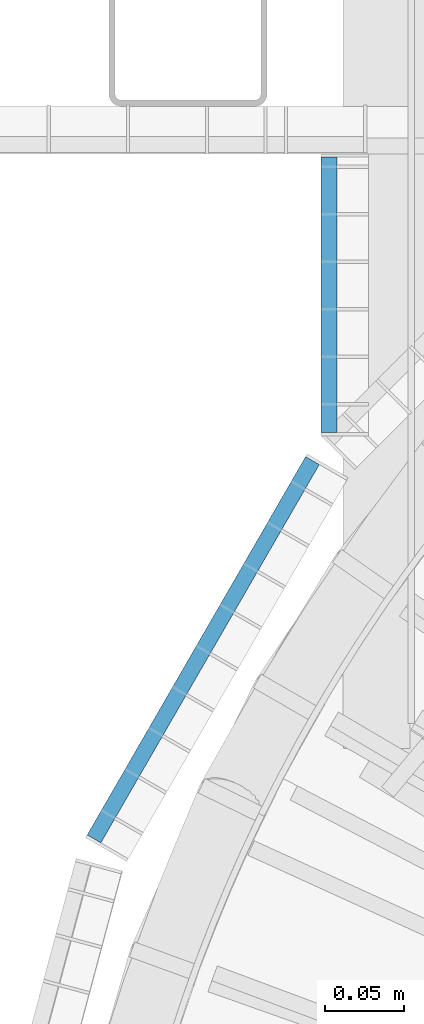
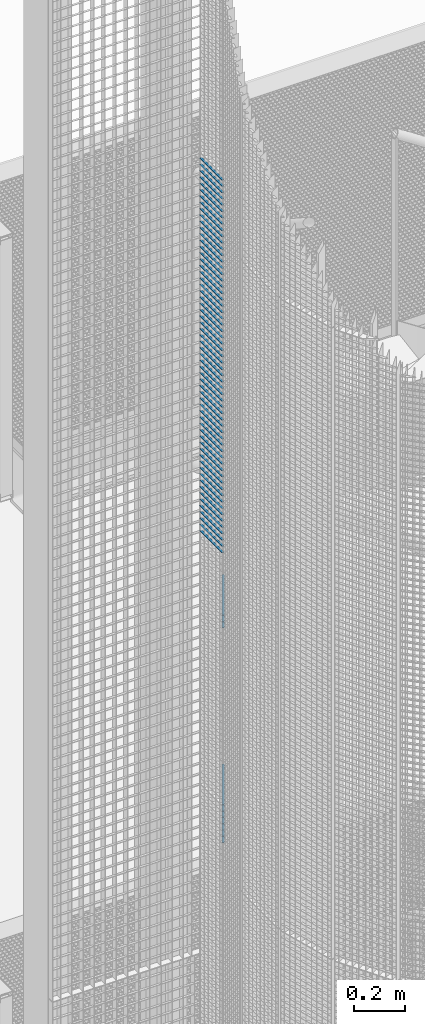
# One storey, part 187 of 1148: 70 beams, 2 elements without a shape of their own.
"""IFC2X3 building model written with IfcOpenShell, lengths in millimetres."""

from ifc_helpers import new_model, si_unit, frame, origin_with_axes, origin_2d_with_axis, place, context, subcontext, project, spatial, rectangle, extrude, material, type_object, element, aggregate, save


model = new_model("IFC2X3")

# Units and contexts
model_context = context("Model", 3, precision=1e-05, world=origin_with_axes())
body_context = subcontext(model_context, "Body", "Model", "MODEL_VIEW")
ifc_project = project(units=[si_unit("LENGTHUNIT", "METRE", prefix="MILLI"), si_unit("AREAUNIT", "SQUARE_METRE"), si_unit("VOLUMEUNIT", "CUBIC_METRE"), si_unit("MASSUNIT", "GRAM", prefix="KILO"), si_unit("TIMEUNIT", "SECOND"), si_unit("PLANEANGLEUNIT", "RADIAN"), si_unit("SOLIDANGLEUNIT", "STERADIAN"), si_unit("THERMODYNAMICTEMPERATUREUNIT", "DEGREE_CELSIUS"), si_unit("LUMINOUSINTENSITYUNIT", "LUMEN")], contexts=[model_context])

# Site, building, storey
site_placement = place(None, origin_with_axes())
site = spatial("IfcSite", under=ifc_project, at=site_placement, Name="Undefined", CompositionType="ELEMENT")
building_placement = place(site_placement, origin_with_axes())
building = spatial("IfcBuilding", under=site, at=building_placement, Name="Undefined", CompositionType="ELEMENT")
storey_placement = place(building_placement, origin_with_axes())
storey = spatial("IfcBuildingStorey", under=building, at=storey_placement, Name="Undefined", CompositionType="ELEMENT", Elevation=0.0)

# Assembly, beams
assembly_1_placement = place(storey_placement, origin_with_axes())
assembly_1 = element("IfcElementAssembly", 1, at=assembly_1_placement, inside=storey, Name="BORDURE", AssemblyPlace="NOTDEFINED", PredefinedType="NOTDEFINED")
ifc_material = material(Name="STEEL/S235JR")
beam_type = type_object("IfcBeamType", Name="PL2*10", PredefinedType="NOTDEFINED")
beam_1_placement = place(assembly_1_placement, frame((-895.303964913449, 676.24804453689, 12210.0), z_axis=(-0.866025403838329, 0.499999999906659, 0.0), x_axis=(-0.49999999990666, -0.866025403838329, 0.0)))
beam_1 = element("IfcBeam", 2, at=beam_1_placement, type_object=beam_type, material=ifc_material, Name="ENTRETOISE", context=body_context, shape_type="SweptSolid", body=[
    extrude(rectangle(XDim=2.0, YDim=10.0, at=origin_2d_with_axis()), frame((275.999999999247, 9.09494701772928e-13, 1.53210777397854e-14), z_axis=(-1.0, 0.0, 0.0), x_axis=(0.0, -1.0, 0.0)), (0.0, 0.0, 1.0), 276.0),
])
beam_2_placement = place(assembly_1_placement, frame((-895.30396491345, 676.24804453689, 12180.0), z_axis=(-0.866025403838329, 0.499999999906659, 0.0), x_axis=(-0.49999999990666, -0.866025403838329, 0.0)))
beam_2 = element("IfcBeam", 3, at=beam_2_placement, type_object=beam_type, material=ifc_material, Name="ENTRETOISE", context=body_context, shape_type="SweptSolid", body=[
    extrude(rectangle(XDim=2.0, YDim=10.0, at=origin_2d_with_axis()), frame((275.999999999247, 9.09494701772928e-13, 1.53210777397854e-14), z_axis=(-1.0, 0.0, 0.0), x_axis=(0.0, -1.0, 0.0)), (0.0, 0.0, 1.0), 276.0),
])
beam_3_placement = place(assembly_1_placement, frame((-895.303964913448, 676.248044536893, 13050.0), z_axis=(-0.866025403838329, 0.499999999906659, 0.0), x_axis=(-0.49999999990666, -0.866025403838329, 0.0)))
beam_3 = element("IfcBeam", 4, at=beam_3_placement, type_object=beam_type, material=ifc_material, Name="ENTRETOISE", context=body_context, shape_type="SweptSolid", body=[
    extrude(rectangle(XDim=2.0, YDim=10.0, at=origin_2d_with_axis()), frame((275.999999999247, 9.09494701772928e-13, 1.53210777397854e-14), z_axis=(-1.0, 0.0, 0.0), x_axis=(0.0, -1.0, 0.0)), (0.0, 0.0, 1.0), 276.0),
])
beam_4_placement = place(assembly_1_placement, frame((-895.30396491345, 676.24804453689, 12150.0), z_axis=(-0.866025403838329, 0.499999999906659, 0.0), x_axis=(-0.49999999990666, -0.866025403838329, 0.0)))
beam_4 = element("IfcBeam", 5, at=beam_4_placement, type_object=beam_type, material=ifc_material, Name="ENTRETOISE", context=body_context, shape_type="SweptSolid", body=[
    extrude(rectangle(XDim=2.0, YDim=10.0, at=origin_2d_with_axis()), frame((275.999999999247, 9.09494701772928e-13, 1.53210777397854e-14), z_axis=(-1.0, 0.0, 0.0), x_axis=(0.0, -1.0, 0.0)), (0.0, 0.0, 1.0), 276.0),
])
beam_5_placement = place(assembly_1_placement, frame((-895.30396491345, 676.24804453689, 12120.0), z_axis=(-0.866025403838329, 0.499999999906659, 0.0), x_axis=(-0.49999999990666, -0.866025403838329, 0.0)))
beam_5 = element("IfcBeam", 6, at=beam_5_placement, type_object=beam_type, material=ifc_material, Name="ENTRETOISE", context=body_context, shape_type="SweptSolid", body=[
    extrude(rectangle(XDim=2.0, YDim=10.0, at=origin_2d_with_axis()), frame((275.999999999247, 9.09494701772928e-13, 1.53210777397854e-14), z_axis=(-1.0, 0.0, 0.0), x_axis=(0.0, -1.0, 0.0)), (0.0, 0.0, 1.0), 276.0),
])
beam_6_placement = place(assembly_1_placement, frame((-895.303964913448, 676.248044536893, 13080.0), z_axis=(-0.866025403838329, 0.499999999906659, 0.0), x_axis=(-0.49999999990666, -0.866025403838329, 0.0)))
beam_6 = element("IfcBeam", 7, at=beam_6_placement, type_object=beam_type, material=ifc_material, Name="ENTRETOISE", context=body_context, shape_type="SweptSolid", body=[
    extrude(rectangle(XDim=2.0, YDim=10.0, at=origin_2d_with_axis()), frame((275.999999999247, 9.09494701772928e-13, 1.53210777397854e-14), z_axis=(-1.0, 0.0, 0.0), x_axis=(0.0, -1.0, 0.0)), (0.0, 0.0, 1.0), 276.0),
])
beam_7_placement = place(assembly_1_placement, frame((-895.30396491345, 676.24804453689, 12090.0), z_axis=(-0.866025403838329, 0.499999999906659, 0.0), x_axis=(-0.49999999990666, -0.866025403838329, 0.0)))
beam_7 = element("IfcBeam", 8, at=beam_7_placement, type_object=beam_type, material=ifc_material, Name="ENTRETOISE", context=body_context, shape_type="SweptSolid", body=[
    extrude(rectangle(XDim=2.0, YDim=10.0, at=origin_2d_with_axis()), frame((275.999999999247, 9.09494701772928e-13, 1.53210777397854e-14), z_axis=(-1.0, 0.0, 0.0), x_axis=(0.0, -1.0, 0.0)), (0.0, 0.0, 1.0), 276.0),
])
beam_8_placement = place(assembly_1_placement, frame((-895.30396491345, 676.24804453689, 12060.0), z_axis=(-0.866025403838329, 0.499999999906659, 0.0), x_axis=(-0.49999999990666, -0.866025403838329, 0.0)))
beam_8 = element("IfcBeam", 9, at=beam_8_placement, type_object=beam_type, material=ifc_material, Name="ENTRETOISE", context=body_context, shape_type="SweptSolid", body=[
    extrude(rectangle(XDim=2.0, YDim=10.0, at=origin_2d_with_axis()), frame((275.999999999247, 9.09494701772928e-13, 1.53210777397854e-14), z_axis=(-1.0, 0.0, 0.0), x_axis=(0.0, -1.0, 0.0)), (0.0, 0.0, 1.0), 276.0),
])
beam_9_placement = place(assembly_1_placement, frame((-895.303964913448, 676.248044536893, 13110.0), z_axis=(-0.866025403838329, 0.499999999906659, 0.0), x_axis=(-0.49999999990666, -0.866025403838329, 0.0)))
beam_9 = element("IfcBeam", 10, at=beam_9_placement, type_object=beam_type, material=ifc_material, Name="ENTRETOISE", context=body_context, shape_type="SweptSolid", body=[
    extrude(rectangle(XDim=2.0, YDim=10.0, at=origin_2d_with_axis()), frame((275.999999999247, 9.09494701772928e-13, 1.53210777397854e-14), z_axis=(-1.0, 0.0, 0.0), x_axis=(0.0, -1.0, 0.0)), (0.0, 0.0, 1.0), 276.0),
])
beam_10_placement = place(assembly_1_placement, frame((-895.30396491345, 676.248044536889, 12030.0), z_axis=(-0.866025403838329, 0.499999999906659, 0.0), x_axis=(-0.49999999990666, -0.866025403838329, 0.0)))
beam_10 = element("IfcBeam", 11, at=beam_10_placement, type_object=beam_type, material=ifc_material, Name="ENTRETOISE", context=body_context, shape_type="SweptSolid", body=[
    extrude(rectangle(XDim=2.0, YDim=10.0, at=origin_2d_with_axis()), frame((275.999999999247, 9.09494701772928e-13, 1.53210777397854e-14), z_axis=(-1.0, 0.0, 0.0), x_axis=(0.0, -1.0, 0.0)), (0.0, 0.0, 1.0), 276.0),
])
aggregate(assembly_1, [beam_1, beam_2, beam_3, beam_4, beam_5, beam_6, beam_7, beam_8, beam_9, beam_10])

assembly_2_placement = place(storey_placement, origin_with_axes())
assembly_2 = element("IfcElementAssembly", 12, at=assembly_2_placement, inside=storey, Name="BORDURE", AssemblyPlace="NOTDEFINED", PredefinedType="NOTDEFINED")
beam_11_placement = place(assembly_2_placement, frame((-884.882567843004, 867.997017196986, 14970.0), z_axis=(-1.0, 0.0, 0.0), x_axis=(0.0, -1.0, 0.0)))
beam_11 = element("IfcBeam", 13, at=beam_11_placement, type_object=beam_type, material=ifc_material, Name="ENTRETOISE", context=body_context, shape_type="SweptSolid", body=[
    extrude(rectangle(XDim=2.0, YDim=10.0, at=origin_2d_with_axis()), frame((174.109999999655, 0.0, 0.0), z_axis=(-1.0, 0.0, 0.0), x_axis=(0.0, -1.0, 0.0)), (0.0, 0.0, 1.0), 174.11),
])
beam_12_placement = place(assembly_2_placement, frame((-884.882567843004, 867.997017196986, 14940.0), z_axis=(-1.0, 0.0, 0.0), x_axis=(0.0, -1.0, 0.0)))
beam_12 = element("IfcBeam", 14, at=beam_12_placement, type_object=beam_type, material=ifc_material, Name="ENTRETOISE", context=body_context, shape_type="SweptSolid", body=[
    extrude(rectangle(XDim=2.0, YDim=10.0, at=origin_2d_with_axis()), frame((174.109999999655, 0.0, 0.0), z_axis=(-1.0, 0.0, 0.0), x_axis=(0.0, -1.0, 0.0)), (0.0, 0.0, 1.0), 174.11),
])
beam_13_placement = place(assembly_2_placement, frame((-884.882567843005, 867.997017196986, 14910.0), z_axis=(-1.0, 0.0, 0.0), x_axis=(0.0, -1.0, 0.0)))
beam_13 = element("IfcBeam", 15, at=beam_13_placement, type_object=beam_type, material=ifc_material, Name="ENTRETOISE", context=body_context, shape_type="SweptSolid", body=[
    extrude(rectangle(XDim=2.0, YDim=10.0, at=origin_2d_with_axis()), frame((174.109999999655, 0.0, 0.0), z_axis=(-1.0, 0.0, 0.0), x_axis=(0.0, -1.0, 0.0)), (0.0, 0.0, 1.0), 174.11),
])
beam_14_placement = place(assembly_2_placement, frame((-884.882567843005, 867.997017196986, 14880.0), z_axis=(-1.0, 0.0, 0.0), x_axis=(0.0, -1.0, 0.0)))
beam_14 = element("IfcBeam", 16, at=beam_14_placement, type_object=beam_type, material=ifc_material, Name="ENTRETOISE", context=body_context, shape_type="SweptSolid", body=[
    extrude(rectangle(XDim=2.0, YDim=10.0, at=origin_2d_with_axis()), frame((174.109999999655, 0.0, 0.0), z_axis=(-1.0, 0.0, 0.0), x_axis=(0.0, -1.0, 0.0)), (0.0, 0.0, 1.0), 174.11),
])
beam_15_placement = place(assembly_2_placement, frame((-884.882567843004, 867.997017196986, 14850.0), z_axis=(-1.0, 0.0, 0.0), x_axis=(0.0, -1.0, 0.0)))
beam_15 = element("IfcBeam", 17, at=beam_15_placement, type_object=beam_type, material=ifc_material, Name="ENTRETOISE", context=body_context, shape_type="SweptSolid", body=[
    extrude(rectangle(XDim=2.0, YDim=10.0, at=origin_2d_with_axis()), frame((174.109999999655, 0.0, 0.0), z_axis=(-1.0, 0.0, 0.0), x_axis=(0.0, -1.0, 0.0)), (0.0, 0.0, 1.0), 174.11),
])
beam_16_placement = place(assembly_2_placement, frame((-884.882567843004, 867.997017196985, 14820.0), z_axis=(-1.0, 0.0, 0.0), x_axis=(0.0, -1.0, 0.0)))
beam_16 = element("IfcBeam", 18, at=beam_16_placement, type_object=beam_type, material=ifc_material, Name="ENTRETOISE", context=body_context, shape_type="SweptSolid", body=[
    extrude(rectangle(XDim=2.0, YDim=10.0, at=origin_2d_with_axis()), frame((174.109999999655, 0.0, 0.0), z_axis=(-1.0, 0.0, 0.0), x_axis=(0.0, -1.0, 0.0)), (0.0, 0.0, 1.0), 174.11),
])
beam_17_placement = place(assembly_2_placement, frame((-884.882567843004, 867.997017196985, 14790.0), z_axis=(-1.0, 0.0, 0.0), x_axis=(0.0, -1.0, 0.0)))
beam_17 = element("IfcBeam", 19, at=beam_17_placement, type_object=beam_type, material=ifc_material, Name="ENTRETOISE", context=body_context, shape_type="SweptSolid", body=[
    extrude(rectangle(XDim=2.0, YDim=10.0, at=origin_2d_with_axis()), frame((174.109999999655, 0.0, 0.0), z_axis=(-1.0, 0.0, 0.0), x_axis=(0.0, -1.0, 0.0)), (0.0, 0.0, 1.0), 174.11),
])
beam_18_placement = place(assembly_2_placement, frame((-884.882567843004, 867.997017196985, 14760.0), z_axis=(-1.0, 0.0, 0.0), x_axis=(0.0, -1.0, 0.0)))
beam_18 = element("IfcBeam", 20, at=beam_18_placement, type_object=beam_type, material=ifc_material, Name="ENTRETOISE", context=body_context, shape_type="SweptSolid", body=[
    extrude(rectangle(XDim=2.0, YDim=10.0, at=origin_2d_with_axis()), frame((174.109999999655, 0.0, 0.0), z_axis=(-1.0, 0.0, 0.0), x_axis=(0.0, -1.0, 0.0)), (0.0, 0.0, 1.0), 174.11),
])
beam_19_placement = place(assembly_2_placement, frame((-884.882567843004, 867.997017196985, 14730.0), z_axis=(-1.0, 0.0, 0.0), x_axis=(0.0, -1.0, 0.0)))
beam_19 = element("IfcBeam", 21, at=beam_19_placement, type_object=beam_type, material=ifc_material, Name="ENTRETOISE", context=body_context, shape_type="SweptSolid", body=[
    extrude(rectangle(XDim=2.0, YDim=10.0, at=origin_2d_with_axis()), frame((174.109999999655, 0.0, 0.0), z_axis=(-1.0, 0.0, 0.0), x_axis=(0.0, -1.0, 0.0)), (0.0, 0.0, 1.0), 174.11),
])
beam_20_placement = place(assembly_2_placement, frame((-884.882567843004, 867.997017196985, 14700.0), z_axis=(-1.0, 0.0, 0.0), x_axis=(0.0, -1.0, 0.0)))
beam_20 = element("IfcBeam", 22, at=beam_20_placement, type_object=beam_type, material=ifc_material, Name="ENTRETOISE", context=body_context, shape_type="SweptSolid", body=[
    extrude(rectangle(XDim=2.0, YDim=10.0, at=origin_2d_with_axis()), frame((174.109999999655, 0.0, 0.0), z_axis=(-1.0, 0.0, 0.0), x_axis=(0.0, -1.0, 0.0)), (0.0, 0.0, 1.0), 174.11),
])
beam_21_placement = place(assembly_2_placement, frame((-884.882567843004, 867.997017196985, 14670.0), z_axis=(-1.0, 0.0, 0.0), x_axis=(0.0, -1.0, 0.0)))
beam_21 = element("IfcBeam", 23, at=beam_21_placement, type_object=beam_type, material=ifc_material, Name="ENTRETOISE", context=body_context, shape_type="SweptSolid", body=[
    extrude(rectangle(XDim=2.0, YDim=10.0, at=origin_2d_with_axis()), frame((174.109999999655, 0.0, 0.0), z_axis=(-1.0, 0.0, 0.0), x_axis=(0.0, -1.0, 0.0)), (0.0, 0.0, 1.0), 174.11),
])
beam_22_placement = place(assembly_2_placement, frame((-884.882567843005, 867.997017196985, 14640.0), z_axis=(-1.0, 0.0, 0.0), x_axis=(0.0, -1.0, 0.0)))
beam_22 = element("IfcBeam", 24, at=beam_22_placement, type_object=beam_type, material=ifc_material, Name="ENTRETOISE", context=body_context, shape_type="SweptSolid", body=[
    extrude(rectangle(XDim=2.0, YDim=10.0, at=origin_2d_with_axis()), frame((174.109999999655, 0.0, 0.0), z_axis=(-1.0, 0.0, 0.0), x_axis=(0.0, -1.0, 0.0)), (0.0, 0.0, 1.0), 174.11),
])
beam_23_placement = place(assembly_2_placement, frame((-884.882567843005, 867.997017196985, 14610.0), z_axis=(-1.0, 0.0, 0.0), x_axis=(0.0, -1.0, 0.0)))
beam_23 = element("IfcBeam", 25, at=beam_23_placement, type_object=beam_type, material=ifc_material, Name="ENTRETOISE", context=body_context, shape_type="SweptSolid", body=[
    extrude(rectangle(XDim=2.0, YDim=10.0, at=origin_2d_with_axis()), frame((174.109999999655, 0.0, 0.0), z_axis=(-1.0, 0.0, 0.0), x_axis=(0.0, -1.0, 0.0)), (0.0, 0.0, 1.0), 174.11),
])
beam_24_placement = place(assembly_2_placement, frame((-884.882567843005, 867.997017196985, 14580.0), z_axis=(-1.0, 0.0, 0.0), x_axis=(0.0, -1.0, 0.0)))
beam_24 = element("IfcBeam", 26, at=beam_24_placement, type_object=beam_type, material=ifc_material, Name="ENTRETOISE", context=body_context, shape_type="SweptSolid", body=[
    extrude(rectangle(XDim=2.0, YDim=10.0, at=origin_2d_with_axis()), frame((174.109999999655, 0.0, 0.0), z_axis=(-1.0, 0.0, 0.0), x_axis=(0.0, -1.0, 0.0)), (0.0, 0.0, 1.0), 174.11),
])
beam_25_placement = place(assembly_2_placement, frame((-884.882567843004, 867.997017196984, 14550.0), z_axis=(-1.0, 0.0, 0.0), x_axis=(0.0, -1.0, 0.0)))
beam_25 = element("IfcBeam", 27, at=beam_25_placement, type_object=beam_type, material=ifc_material, Name="ENTRETOISE", context=body_context, shape_type="SweptSolid", body=[
    extrude(rectangle(XDim=2.0, YDim=10.0, at=origin_2d_with_axis()), frame((174.109999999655, 0.0, 0.0), z_axis=(-1.0, 0.0, 0.0), x_axis=(0.0, -1.0, 0.0)), (0.0, 0.0, 1.0), 174.11),
])
beam_26_placement = place(assembly_2_placement, frame((-884.882567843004, 867.997017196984, 14520.0), z_axis=(-1.0, 0.0, 0.0), x_axis=(0.0, -1.0, 0.0)))
beam_26 = element("IfcBeam", 28, at=beam_26_placement, type_object=beam_type, material=ifc_material, Name="ENTRETOISE", context=body_context, shape_type="SweptSolid", body=[
    extrude(rectangle(XDim=2.0, YDim=10.0, at=origin_2d_with_axis()), frame((174.109999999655, 0.0, 0.0), z_axis=(-1.0, 0.0, 0.0), x_axis=(0.0, -1.0, 0.0)), (0.0, 0.0, 1.0), 174.11),
])
beam_27_placement = place(assembly_2_placement, frame((-884.882567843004, 867.997017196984, 14490.0), z_axis=(-1.0, 0.0, 0.0), x_axis=(0.0, -1.0, 0.0)))
beam_27 = element("IfcBeam", 29, at=beam_27_placement, type_object=beam_type, material=ifc_material, Name="ENTRETOISE", context=body_context, shape_type="SweptSolid", body=[
    extrude(rectangle(XDim=2.0, YDim=10.0, at=origin_2d_with_axis()), frame((174.109999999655, 0.0, 0.0), z_axis=(-1.0, 0.0, 0.0), x_axis=(0.0, -1.0, 0.0)), (0.0, 0.0, 1.0), 174.11),
])
beam_28_placement = place(assembly_2_placement, frame((-884.882567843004, 867.997017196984, 14460.0), z_axis=(-1.0, 0.0, 0.0), x_axis=(0.0, -1.0, 0.0)))
beam_28 = element("IfcBeam", 30, at=beam_28_placement, type_object=beam_type, material=ifc_material, Name="ENTRETOISE", context=body_context, shape_type="SweptSolid", body=[
    extrude(rectangle(XDim=2.0, YDim=10.0, at=origin_2d_with_axis()), frame((174.109999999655, 0.0, 0.0), z_axis=(-1.0, 0.0, 0.0), x_axis=(0.0, -1.0, 0.0)), (0.0, 0.0, 1.0), 174.11),
])
beam_29_placement = place(assembly_2_placement, frame((-884.882567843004, 867.997017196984, 14430.0), z_axis=(-1.0, 0.0, 0.0), x_axis=(0.0, -1.0, 0.0)))
beam_29 = element("IfcBeam", 31, at=beam_29_placement, type_object=beam_type, material=ifc_material, Name="ENTRETOISE", context=body_context, shape_type="SweptSolid", body=[
    extrude(rectangle(XDim=2.0, YDim=10.0, at=origin_2d_with_axis()), frame((174.109999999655, 0.0, 0.0), z_axis=(-1.0, 0.0, 0.0), x_axis=(0.0, -1.0, 0.0)), (0.0, 0.0, 1.0), 174.11),
])
beam_30_placement = place(assembly_2_placement, frame((-884.882567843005, 867.997017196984, 14400.0), z_axis=(-1.0, 0.0, 0.0), x_axis=(0.0, -1.0, 0.0)))
beam_30 = element("IfcBeam", 32, at=beam_30_placement, type_object=beam_type, material=ifc_material, Name="ENTRETOISE", context=body_context, shape_type="SweptSolid", body=[
    extrude(rectangle(XDim=2.0, YDim=10.0, at=origin_2d_with_axis()), frame((174.109999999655, 0.0, 0.0), z_axis=(-1.0, 0.0, 0.0), x_axis=(0.0, -1.0, 0.0)), (0.0, 0.0, 1.0), 174.11),
])
beam_31_placement = place(assembly_2_placement, frame((-884.882567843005, 867.997017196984, 14370.0), z_axis=(-1.0, 0.0, 0.0), x_axis=(0.0, -1.0, 0.0)))
beam_31 = element("IfcBeam", 33, at=beam_31_placement, type_object=beam_type, material=ifc_material, Name="ENTRETOISE", context=body_context, shape_type="SweptSolid", body=[
    extrude(rectangle(XDim=2.0, YDim=10.0, at=origin_2d_with_axis()), frame((174.109999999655, 0.0, 0.0), z_axis=(-1.0, 0.0, 0.0), x_axis=(0.0, -1.0, 0.0)), (0.0, 0.0, 1.0), 174.11),
])
beam_32_placement = place(assembly_2_placement, frame((-884.882567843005, 867.997017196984, 14340.0), z_axis=(-1.0, 0.0, 0.0), x_axis=(0.0, -1.0, 0.0)))
beam_32 = element("IfcBeam", 34, at=beam_32_placement, type_object=beam_type, material=ifc_material, Name="ENTRETOISE", context=body_context, shape_type="SweptSolid", body=[
    extrude(rectangle(XDim=2.0, YDim=10.0, at=origin_2d_with_axis()), frame((174.109999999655, 0.0, 0.0), z_axis=(-1.0, 0.0, 0.0), x_axis=(0.0, -1.0, 0.0)), (0.0, 0.0, 1.0), 174.11),
])
beam_33_placement = place(assembly_2_placement, frame((-884.882567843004, 867.997017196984, 14310.0), z_axis=(-1.0, 0.0, 0.0), x_axis=(0.0, -1.0, 0.0)))
beam_33 = element("IfcBeam", 35, at=beam_33_placement, type_object=beam_type, material=ifc_material, Name="ENTRETOISE", context=body_context, shape_type="SweptSolid", body=[
    extrude(rectangle(XDim=2.0, YDim=10.0, at=origin_2d_with_axis()), frame((174.109999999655, 0.0, 0.0), z_axis=(-1.0, 0.0, 0.0), x_axis=(0.0, -1.0, 0.0)), (0.0, 0.0, 1.0), 174.11),
])
beam_34_placement = place(assembly_2_placement, frame((-884.882567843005, 867.997017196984, 14280.0), z_axis=(-1.0, 0.0, 0.0), x_axis=(0.0, -1.0, 0.0)))
beam_34 = element("IfcBeam", 36, at=beam_34_placement, type_object=beam_type, material=ifc_material, Name="ENTRETOISE", context=body_context, shape_type="SweptSolid", body=[
    extrude(rectangle(XDim=2.0, YDim=10.0, at=origin_2d_with_axis()), frame((174.109999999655, 0.0, 0.0), z_axis=(-1.0, 0.0, 0.0), x_axis=(0.0, -1.0, 0.0)), (0.0, 0.0, 1.0), 174.11),
])
beam_35_placement = place(assembly_2_placement, frame((-884.882567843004, 867.997017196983, 14250.0), z_axis=(-1.0, 0.0, 0.0), x_axis=(0.0, -1.0, 0.0)))
beam_35 = element("IfcBeam", 37, at=beam_35_placement, type_object=beam_type, material=ifc_material, Name="ENTRETOISE", context=body_context, shape_type="SweptSolid", body=[
    extrude(rectangle(XDim=2.0, YDim=10.0, at=origin_2d_with_axis()), frame((174.109999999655, 0.0, 0.0), z_axis=(-1.0, 0.0, 0.0), x_axis=(0.0, -1.0, 0.0)), (0.0, 0.0, 1.0), 174.11),
])
beam_36_placement = place(assembly_2_placement, frame((-884.882567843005, 867.997017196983, 14220.0), z_axis=(-1.0, 0.0, 0.0), x_axis=(0.0, -1.0, 0.0)))
beam_36 = element("IfcBeam", 38, at=beam_36_placement, type_object=beam_type, material=ifc_material, Name="ENTRETOISE", context=body_context, shape_type="SweptSolid", body=[
    extrude(rectangle(XDim=2.0, YDim=10.0, at=origin_2d_with_axis()), frame((174.109999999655, 0.0, 0.0), z_axis=(-1.0, 0.0, 0.0), x_axis=(0.0, -1.0, 0.0)), (0.0, 0.0, 1.0), 174.11),
])
beam_37_placement = place(assembly_2_placement, frame((-884.882567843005, 867.997017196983, 14190.0), z_axis=(-1.0, 0.0, 0.0), x_axis=(0.0, -1.0, 0.0)))
beam_37 = element("IfcBeam", 39, at=beam_37_placement, type_object=beam_type, material=ifc_material, Name="ENTRETOISE", context=body_context, shape_type="SweptSolid", body=[
    extrude(rectangle(XDim=2.0, YDim=10.0, at=origin_2d_with_axis()), frame((174.109999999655, 0.0, 0.0), z_axis=(-1.0, 0.0, 0.0), x_axis=(0.0, -1.0, 0.0)), (0.0, 0.0, 1.0), 174.11),
])
beam_38_placement = place(assembly_2_placement, frame((-884.882567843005, 867.997017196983, 14160.0), z_axis=(-1.0, 0.0, 0.0), x_axis=(0.0, -1.0, 0.0)))
beam_38 = element("IfcBeam", 40, at=beam_38_placement, type_object=beam_type, material=ifc_material, Name="ENTRETOISE", context=body_context, shape_type="SweptSolid", body=[
    extrude(rectangle(XDim=2.0, YDim=10.0, at=origin_2d_with_axis()), frame((174.109999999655, 0.0, 0.0), z_axis=(-1.0, 0.0, 0.0), x_axis=(0.0, -1.0, 0.0)), (0.0, 0.0, 1.0), 174.11),
])
beam_39_placement = place(assembly_2_placement, frame((-884.882567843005, 867.997017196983, 14130.0), z_axis=(-1.0, 0.0, 0.0), x_axis=(0.0, -1.0, 0.0)))
beam_39 = element("IfcBeam", 41, at=beam_39_placement, type_object=beam_type, material=ifc_material, Name="ENTRETOISE", context=body_context, shape_type="SweptSolid", body=[
    extrude(rectangle(XDim=2.0, YDim=10.0, at=origin_2d_with_axis()), frame((174.109999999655, 0.0, 0.0), z_axis=(-1.0, 0.0, 0.0), x_axis=(0.0, -1.0, 0.0)), (0.0, 0.0, 1.0), 174.11),
])
beam_40_placement = place(assembly_2_placement, frame((-884.882567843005, 867.997017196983, 14100.0), z_axis=(-1.0, 0.0, 0.0), x_axis=(0.0, -1.0, 0.0)))
beam_40 = element("IfcBeam", 42, at=beam_40_placement, type_object=beam_type, material=ifc_material, Name="ENTRETOISE", context=body_context, shape_type="SweptSolid", body=[
    extrude(rectangle(XDim=2.0, YDim=10.0, at=origin_2d_with_axis()), frame((174.109999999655, 0.0, 0.0), z_axis=(-1.0, 0.0, 0.0), x_axis=(0.0, -1.0, 0.0)), (0.0, 0.0, 1.0), 174.11),
])
beam_41_placement = place(assembly_2_placement, frame((-884.882567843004, 867.997017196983, 14070.0), z_axis=(-1.0, 0.0, 0.0), x_axis=(0.0, -1.0, 0.0)))
beam_41 = element("IfcBeam", 43, at=beam_41_placement, type_object=beam_type, material=ifc_material, Name="ENTRETOISE", context=body_context, shape_type="SweptSolid", body=[
    extrude(rectangle(XDim=2.0, YDim=10.0, at=origin_2d_with_axis()), frame((174.109999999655, 0.0, 0.0), z_axis=(-1.0, 0.0, 0.0), x_axis=(0.0, -1.0, 0.0)), (0.0, 0.0, 1.0), 174.11),
])
beam_42_placement = place(assembly_2_placement, frame((-884.882567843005, 867.997017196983, 14040.0), z_axis=(-1.0, 0.0, 0.0), x_axis=(0.0, -1.0, 0.0)))
beam_42 = element("IfcBeam", 44, at=beam_42_placement, type_object=beam_type, material=ifc_material, Name="ENTRETOISE", context=body_context, shape_type="SweptSolid", body=[
    extrude(rectangle(XDim=2.0, YDim=10.0, at=origin_2d_with_axis()), frame((174.109999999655, 0.0, 0.0), z_axis=(-1.0, 0.0, 0.0), x_axis=(0.0, -1.0, 0.0)), (0.0, 0.0, 1.0), 174.11),
])
beam_43_placement = place(assembly_2_placement, frame((-884.882567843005, 867.997017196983, 14010.0), z_axis=(-1.0, 0.0, 0.0), x_axis=(0.0, -1.0, 0.0)))
beam_43 = element("IfcBeam", 45, at=beam_43_placement, type_object=beam_type, material=ifc_material, Name="ENTRETOISE", context=body_context, shape_type="SweptSolid", body=[
    extrude(rectangle(XDim=2.0, YDim=10.0, at=origin_2d_with_axis()), frame((174.109999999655, 0.0, 0.0), z_axis=(-1.0, 0.0, 0.0), x_axis=(0.0, -1.0, 0.0)), (0.0, 0.0, 1.0), 174.11),
])
beam_44_placement = place(assembly_2_placement, frame((-884.882567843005, 867.997017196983, 13980.0), z_axis=(-1.0, 0.0, 0.0), x_axis=(0.0, -1.0, 0.0)))
beam_44 = element("IfcBeam", 46, at=beam_44_placement, type_object=beam_type, material=ifc_material, Name="ENTRETOISE", context=body_context, shape_type="SweptSolid", body=[
    extrude(rectangle(XDim=2.0, YDim=10.0, at=origin_2d_with_axis()), frame((174.109999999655, 0.0, 0.0), z_axis=(-1.0, 0.0, 0.0), x_axis=(0.0, -1.0, 0.0)), (0.0, 0.0, 1.0), 174.11),
])
beam_45_placement = place(assembly_2_placement, frame((-884.882567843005, 867.997017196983, 13950.0), z_axis=(-1.0, 0.0, 0.0), x_axis=(0.0, -1.0, 0.0)))
beam_45 = element("IfcBeam", 47, at=beam_45_placement, type_object=beam_type, material=ifc_material, Name="ENTRETOISE", context=body_context, shape_type="SweptSolid", body=[
    extrude(rectangle(XDim=2.0, YDim=10.0, at=origin_2d_with_axis()), frame((174.109999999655, 0.0, 0.0), z_axis=(-1.0, 0.0, 0.0), x_axis=(0.0, -1.0, 0.0)), (0.0, 0.0, 1.0), 174.11),
])
beam_46_placement = place(assembly_2_placement, frame((-884.882567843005, 867.997017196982, 13920.0), z_axis=(-1.0, 0.0, 0.0), x_axis=(0.0, -1.0, 0.0)))
beam_46 = element("IfcBeam", 48, at=beam_46_placement, type_object=beam_type, material=ifc_material, Name="ENTRETOISE", context=body_context, shape_type="SweptSolid", body=[
    extrude(rectangle(XDim=2.0, YDim=10.0, at=origin_2d_with_axis()), frame((174.109999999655, 0.0, 0.0), z_axis=(-1.0, 0.0, 0.0), x_axis=(0.0, -1.0, 0.0)), (0.0, 0.0, 1.0), 174.11),
])
beam_47_placement = place(assembly_2_placement, frame((-884.882567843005, 867.997017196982, 13890.0), z_axis=(-1.0, 0.0, 0.0), x_axis=(0.0, -1.0, 0.0)))
beam_47 = element("IfcBeam", 49, at=beam_47_placement, type_object=beam_type, material=ifc_material, Name="ENTRETOISE", context=body_context, shape_type="SweptSolid", body=[
    extrude(rectangle(XDim=2.0, YDim=10.0, at=origin_2d_with_axis()), frame((174.109999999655, 0.0, 0.0), z_axis=(-1.0, 0.0, 0.0), x_axis=(0.0, -1.0, 0.0)), (0.0, 0.0, 1.0), 174.11),
])
beam_48_placement = place(assembly_2_placement, frame((-884.882567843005, 867.997017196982, 13860.0), z_axis=(-1.0, 0.0, 0.0), x_axis=(0.0, -1.0, 0.0)))
beam_48 = element("IfcBeam", 50, at=beam_48_placement, type_object=beam_type, material=ifc_material, Name="ENTRETOISE", context=body_context, shape_type="SweptSolid", body=[
    extrude(rectangle(XDim=2.0, YDim=10.0, at=origin_2d_with_axis()), frame((174.109999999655, 0.0, 0.0), z_axis=(-1.0, 0.0, 0.0), x_axis=(0.0, -1.0, 0.0)), (0.0, 0.0, 1.0), 174.11),
])
beam_49_placement = place(assembly_2_placement, frame((-884.882567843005, 867.997017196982, 13830.0), z_axis=(-1.0, 0.0, 0.0), x_axis=(0.0, -1.0, 0.0)))
beam_49 = element("IfcBeam", 51, at=beam_49_placement, type_object=beam_type, material=ifc_material, Name="ENTRETOISE", context=body_context, shape_type="SweptSolid", body=[
    extrude(rectangle(XDim=2.0, YDim=10.0, at=origin_2d_with_axis()), frame((174.109999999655, 0.0, 0.0), z_axis=(-1.0, 0.0, 0.0), x_axis=(0.0, -1.0, 0.0)), (0.0, 0.0, 1.0), 174.11),
])
beam_50_placement = place(assembly_2_placement, frame((-884.882567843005, 867.997017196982, 13800.0), z_axis=(-1.0, 0.0, 0.0), x_axis=(0.0, -1.0, 0.0)))
beam_50 = element("IfcBeam", 52, at=beam_50_placement, type_object=beam_type, material=ifc_material, Name="ENTRETOISE", context=body_context, shape_type="SweptSolid", body=[
    extrude(rectangle(XDim=2.0, YDim=10.0, at=origin_2d_with_axis()), frame((174.109999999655, 0.0, 0.0), z_axis=(-1.0, 0.0, 0.0), x_axis=(0.0, -1.0, 0.0)), (0.0, 0.0, 1.0), 174.11),
])
beam_51_placement = place(assembly_2_placement, frame((-884.882567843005, 867.997017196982, 13770.0), z_axis=(-1.0, 0.0, 0.0), x_axis=(0.0, -1.0, 0.0)))
beam_51 = element("IfcBeam", 53, at=beam_51_placement, type_object=beam_type, material=ifc_material, Name="ENTRETOISE", context=body_context, shape_type="SweptSolid", body=[
    extrude(rectangle(XDim=2.0, YDim=10.0, at=origin_2d_with_axis()), frame((174.109999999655, 0.0, 0.0), z_axis=(-1.0, 0.0, 0.0), x_axis=(0.0, -1.0, 0.0)), (0.0, 0.0, 1.0), 174.11),
])
beam_52_placement = place(assembly_2_placement, frame((-884.882567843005, 867.997017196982, 13740.0), z_axis=(-1.0, 0.0, 0.0), x_axis=(0.0, -1.0, 0.0)))
beam_52 = element("IfcBeam", 54, at=beam_52_placement, type_object=beam_type, material=ifc_material, Name="ENTRETOISE", context=body_context, shape_type="SweptSolid", body=[
    extrude(rectangle(XDim=2.0, YDim=10.0, at=origin_2d_with_axis()), frame((174.109999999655, 0.0, 0.0), z_axis=(-1.0, 0.0, 0.0), x_axis=(0.0, -1.0, 0.0)), (0.0, 0.0, 1.0), 174.11),
])
beam_53_placement = place(assembly_2_placement, frame((-884.882567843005, 867.997017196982, 13710.0), z_axis=(-1.0, 0.0, 0.0), x_axis=(0.0, -1.0, 0.0)))
beam_53 = element("IfcBeam", 55, at=beam_53_placement, type_object=beam_type, material=ifc_material, Name="ENTRETOISE", context=body_context, shape_type="SweptSolid", body=[
    extrude(rectangle(XDim=2.0, YDim=10.0, at=origin_2d_with_axis()), frame((174.109999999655, 0.0, 0.0), z_axis=(-1.0, 0.0, 0.0), x_axis=(0.0, -1.0, 0.0)), (0.0, 0.0, 1.0), 174.11),
])
beam_54_placement = place(assembly_2_placement, frame((-884.882567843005, 867.997017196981, 13680.0), z_axis=(-1.0, 0.0, 0.0), x_axis=(0.0, -1.0, 0.0)))
beam_54 = element("IfcBeam", 56, at=beam_54_placement, type_object=beam_type, material=ifc_material, Name="ENTRETOISE", context=body_context, shape_type="SweptSolid", body=[
    extrude(rectangle(XDim=2.0, YDim=10.0, at=origin_2d_with_axis()), frame((174.109999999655, 0.0, 0.0), z_axis=(-1.0, 0.0, 0.0), x_axis=(0.0, -1.0, 0.0)), (0.0, 0.0, 1.0), 174.11),
])
beam_55_placement = place(assembly_2_placement, frame((-884.882567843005, 867.997017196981, 13650.0), z_axis=(-1.0, 0.0, 0.0), x_axis=(0.0, -1.0, 0.0)))
beam_55 = element("IfcBeam", 57, at=beam_55_placement, type_object=beam_type, material=ifc_material, Name="ENTRETOISE", context=body_context, shape_type="SweptSolid", body=[
    extrude(rectangle(XDim=2.0, YDim=10.0, at=origin_2d_with_axis()), frame((174.109999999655, 0.0, 0.0), z_axis=(-1.0, 0.0, 0.0), x_axis=(0.0, -1.0, 0.0)), (0.0, 0.0, 1.0), 174.11),
])
beam_56_placement = place(assembly_2_placement, frame((-884.882567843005, 867.997017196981, 13620.0), z_axis=(-1.0, 0.0, 0.0), x_axis=(0.0, -1.0, 0.0)))
beam_56 = element("IfcBeam", 58, at=beam_56_placement, type_object=beam_type, material=ifc_material, Name="ENTRETOISE", context=body_context, shape_type="SweptSolid", body=[
    extrude(rectangle(XDim=2.0, YDim=10.0, at=origin_2d_with_axis()), frame((174.109999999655, 0.0, 0.0), z_axis=(-1.0, 0.0, 0.0), x_axis=(0.0, -1.0, 0.0)), (0.0, 0.0, 1.0), 174.11),
])
beam_57_placement = place(assembly_2_placement, frame((-884.882567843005, 867.997017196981, 13590.0), z_axis=(-1.0, 0.0, 0.0), x_axis=(0.0, -1.0, 0.0)))
beam_57 = element("IfcBeam", 59, at=beam_57_placement, type_object=beam_type, material=ifc_material, Name="ENTRETOISE", context=body_context, shape_type="SweptSolid", body=[
    extrude(rectangle(XDim=2.0, YDim=10.0, at=origin_2d_with_axis()), frame((174.109999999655, 0.0, 0.0), z_axis=(-1.0, 0.0, 0.0), x_axis=(0.0, -1.0, 0.0)), (0.0, 0.0, 1.0), 174.11),
])
beam_58_placement = place(assembly_2_placement, frame((-884.882567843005, 867.997017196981, 13560.0), z_axis=(-1.0, 0.0, 0.0), x_axis=(0.0, -1.0, 0.0)))
beam_58 = element("IfcBeam", 60, at=beam_58_placement, type_object=beam_type, material=ifc_material, Name="ENTRETOISE", context=body_context, shape_type="SweptSolid", body=[
    extrude(rectangle(XDim=2.0, YDim=10.0, at=origin_2d_with_axis()), frame((174.109999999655, 0.0, 0.0), z_axis=(-1.0, 0.0, 0.0), x_axis=(0.0, -1.0, 0.0)), (0.0, 0.0, 1.0), 174.11),
])
beam_59_placement = place(assembly_2_placement, frame((-884.882567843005, 867.997017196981, 13530.0), z_axis=(-1.0, 0.0, 0.0), x_axis=(0.0, -1.0, 0.0)))
beam_59 = element("IfcBeam", 61, at=beam_59_placement, type_object=beam_type, material=ifc_material, Name="ENTRETOISE", context=body_context, shape_type="SweptSolid", body=[
    extrude(rectangle(XDim=2.0, YDim=10.0, at=origin_2d_with_axis()), frame((174.109999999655, 0.0, 0.0), z_axis=(-1.0, 0.0, 0.0), x_axis=(0.0, -1.0, 0.0)), (0.0, 0.0, 1.0), 174.11),
])
beam_60_placement = place(assembly_2_placement, frame((-884.882567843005, 867.997017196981, 13500.0), z_axis=(-1.0, 0.0, 0.0), x_axis=(0.0, -1.0, 0.0)))
beam_60 = element("IfcBeam", 62, at=beam_60_placement, type_object=beam_type, material=ifc_material, Name="ENTRETOISE", context=body_context, shape_type="SweptSolid", body=[
    extrude(rectangle(XDim=2.0, YDim=10.0, at=origin_2d_with_axis()), frame((174.109999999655, 0.0, 0.0), z_axis=(-1.0, 0.0, 0.0), x_axis=(0.0, -1.0, 0.0)), (0.0, 0.0, 1.0), 174.11),
])
beam_61_placement = place(assembly_2_placement, frame((-884.882567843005, 867.997017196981, 13470.0), z_axis=(-1.0, 0.0, 0.0), x_axis=(0.0, -1.0, 0.0)))
beam_61 = element("IfcBeam", 63, at=beam_61_placement, type_object=beam_type, material=ifc_material, Name="ENTRETOISE", context=body_context, shape_type="SweptSolid", body=[
    extrude(rectangle(XDim=2.0, YDim=10.0, at=origin_2d_with_axis()), frame((174.109999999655, 0.0, 0.0), z_axis=(-1.0, 0.0, 0.0), x_axis=(0.0, -1.0, 0.0)), (0.0, 0.0, 1.0), 174.11),
])
beam_62_placement = place(assembly_2_placement, frame((-884.882567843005, 867.997017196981, 13440.0), z_axis=(-1.0, 0.0, 0.0), x_axis=(0.0, -1.0, 0.0)))
beam_62 = element("IfcBeam", 64, at=beam_62_placement, type_object=beam_type, material=ifc_material, Name="ENTRETOISE", context=body_context, shape_type="SweptSolid", body=[
    extrude(rectangle(XDim=2.0, YDim=10.0, at=origin_2d_with_axis()), frame((174.109999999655, 0.0, 0.0), z_axis=(-1.0, 0.0, 0.0), x_axis=(0.0, -1.0, 0.0)), (0.0, 0.0, 1.0), 174.11),
])
beam_63_placement = place(assembly_2_placement, frame((-884.882567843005, 867.997017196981, 13410.0), z_axis=(-1.0, 0.0, 0.0), x_axis=(0.0, -1.0, 0.0)))
beam_63 = element("IfcBeam", 65, at=beam_63_placement, type_object=beam_type, material=ifc_material, Name="ENTRETOISE", context=body_context, shape_type="SweptSolid", body=[
    extrude(rectangle(XDim=2.0, YDim=10.0, at=origin_2d_with_axis()), frame((174.109999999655, 0.0, 0.0), z_axis=(-1.0, 0.0, 0.0), x_axis=(0.0, -1.0, 0.0)), (0.0, 0.0, 1.0), 174.11),
])
beam_64_placement = place(assembly_2_placement, frame((-884.882567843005, 867.99701719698, 13380.0), z_axis=(-1.0, 0.0, 0.0), x_axis=(0.0, -1.0, 0.0)))
beam_64 = element("IfcBeam", 66, at=beam_64_placement, type_object=beam_type, material=ifc_material, Name="ENTRETOISE", context=body_context, shape_type="SweptSolid", body=[
    extrude(rectangle(XDim=2.0, YDim=10.0, at=origin_2d_with_axis()), frame((174.109999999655, 0.0, 0.0), z_axis=(-1.0, 0.0, 0.0), x_axis=(0.0, -1.0, 0.0)), (0.0, 0.0, 1.0), 174.11),
])
beam_65_placement = place(assembly_2_placement, frame((-884.882567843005, 867.99701719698, 13350.0), z_axis=(-1.0, 0.0, 0.0), x_axis=(0.0, -1.0, 0.0)))
beam_65 = element("IfcBeam", 67, at=beam_65_placement, type_object=beam_type, material=ifc_material, Name="ENTRETOISE", context=body_context, shape_type="SweptSolid", body=[
    extrude(rectangle(XDim=2.0, YDim=10.0, at=origin_2d_with_axis()), frame((174.109999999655, 0.0, 0.0), z_axis=(-1.0, 0.0, 0.0), x_axis=(0.0, -1.0, 0.0)), (0.0, 0.0, 1.0), 174.11),
])
beam_66_placement = place(assembly_2_placement, frame((-884.882567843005, 867.99701719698, 13320.0), z_axis=(-1.0, 0.0, 0.0), x_axis=(0.0, -1.0, 0.0)))
beam_66 = element("IfcBeam", 68, at=beam_66_placement, type_object=beam_type, material=ifc_material, Name="ENTRETOISE", context=body_context, shape_type="SweptSolid", body=[
    extrude(rectangle(XDim=2.0, YDim=10.0, at=origin_2d_with_axis()), frame((174.109999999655, 0.0, 0.0), z_axis=(-1.0, 0.0, 0.0), x_axis=(0.0, -1.0, 0.0)), (0.0, 0.0, 1.0), 174.11),
])
beam_67_placement = place(assembly_2_placement, frame((-884.882567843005, 867.99701719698, 13290.0), z_axis=(-1.0, 0.0, 0.0), x_axis=(0.0, -1.0, 0.0)))
beam_67 = element("IfcBeam", 69, at=beam_67_placement, type_object=beam_type, material=ifc_material, Name="ENTRETOISE", context=body_context, shape_type="SweptSolid", body=[
    extrude(rectangle(XDim=2.0, YDim=10.0, at=origin_2d_with_axis()), frame((174.109999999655, 0.0, 0.0), z_axis=(-1.0, 0.0, 0.0), x_axis=(0.0, -1.0, 0.0)), (0.0, 0.0, 1.0), 174.11),
])
beam_68_placement = place(assembly_2_placement, frame((-884.882567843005, 867.99701719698, 13260.0), z_axis=(-1.0, 0.0, 0.0), x_axis=(0.0, -1.0, 0.0)))
beam_68 = element("IfcBeam", 70, at=beam_68_placement, type_object=beam_type, material=ifc_material, Name="ENTRETOISE", context=body_context, shape_type="SweptSolid", body=[
    extrude(rectangle(XDim=2.0, YDim=10.0, at=origin_2d_with_axis()), frame((174.109999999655, 0.0, 0.0), z_axis=(-1.0, 0.0, 0.0), x_axis=(0.0, -1.0, 0.0)), (0.0, 0.0, 1.0), 174.11),
])
beam_69_placement = place(assembly_2_placement, frame((-884.882567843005, 867.99701719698, 13230.0), z_axis=(-1.0, 0.0, 0.0), x_axis=(0.0, -1.0, 0.0)))
beam_69 = element("IfcBeam", 71, at=beam_69_placement, type_object=beam_type, material=ifc_material, Name="ENTRETOISE", context=body_context, shape_type="SweptSolid", body=[
    extrude(rectangle(XDim=2.0, YDim=10.0, at=origin_2d_with_axis()), frame((174.109999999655, 0.0, 0.0), z_axis=(-1.0, 0.0, 0.0), x_axis=(0.0, -1.0, 0.0)), (0.0, 0.0, 1.0), 174.11),
])
beam_70_placement = place(assembly_2_placement, frame((-884.882567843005, 867.99701719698, 13200.0), z_axis=(-1.0, 0.0, 0.0), x_axis=(0.0, -1.0, 0.0)))
beam_70 = element("IfcBeam", 72, at=beam_70_placement, type_object=beam_type, material=ifc_material, Name="ENTRETOISE", context=body_context, shape_type="SweptSolid", body=[
    extrude(rectangle(XDim=2.0, YDim=10.0, at=origin_2d_with_axis()), frame((174.109999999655, 0.0, 0.0), z_axis=(-1.0, 0.0, 0.0), x_axis=(0.0, -1.0, 0.0)), (0.0, 0.0, 1.0), 174.11),
])
aggregate(assembly_2, [beam_11, beam_12, beam_13, beam_14, beam_15, beam_16, beam_17, beam_18, beam_19, beam_20, beam_21, beam_22, beam_23, beam_24, beam_25, beam_26, beam_27, beam_28, beam_29, beam_30, beam_31, beam_32, beam_33, beam_34, beam_35, beam_36, beam_37, beam_38, beam_39, beam_40, beam_41, beam_42, beam_43, beam_44, beam_45, beam_46, beam_47, beam_48, beam_49, beam_50, beam_51, beam_52, beam_53, beam_54, beam_55, beam_56, beam_57, beam_58, beam_59, beam_60, beam_61, beam_62, beam_63, beam_64, beam_65, beam_66, beam_67, beam_68, beam_69, beam_70])

save(model, "model.ifc")
